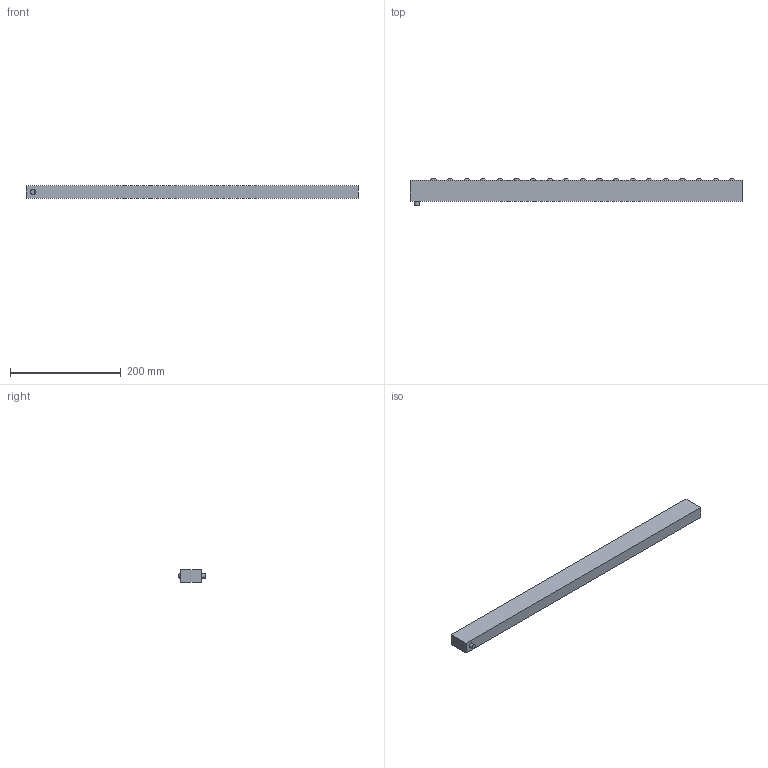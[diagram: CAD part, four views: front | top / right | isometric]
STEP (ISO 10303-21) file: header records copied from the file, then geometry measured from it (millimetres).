
FILE_DESCRIPTION(/* description */ (''),/* implementation_level */ '2;1');
FILE_NAME(/* name */ 'V:\Shrinkwrap\EMB\EMB - SHRINKWRAP\EMB22\EMB22-19_Shrinkwrap_1.stp',/* time_stamp */ '2022-08-12T10:52:30+02:00',/* author */ ('cw'),/* organization */ (''),/* preprocessor_version */ 'ST-DEVELOPER v17',/* originating_system */ 'Autodesk Inventor 2019',/* authorisation */ '');
FILE_SCHEMA (('AUTOMOTIVE_DESIGN { 1 0 10303 214 3 1 1 }'));
Length unit declared in the file: millimetre
Products named in the file (1): EMB22-19_Shrinkwrap_1
Bounding box: 600 x 48.46 x 21.8 mm (x, y, z)
Volume: 495366.8 mm3; surface area: 76190.6 mm2
Topology: 1 solids, 1 shells, 33 faces, 47 edges, 41 vertices
Faces by surface type: sphere 19, plane 10, cylinder 4
Full cylindrical faces by diameter (mm): 8 x1, 9 x1, 13 x1, 14 x1
Entity records: 847 total; most frequent: DIRECTION 142, CARTESIAN_POINT 120, ORIENTED_EDGE 90, AXIS2_PLACEMENT_3D 63, EDGE_LOOP 56, EDGE_CURVE 45, VERTEX_POINT 37, STYLED_ITEM 36
